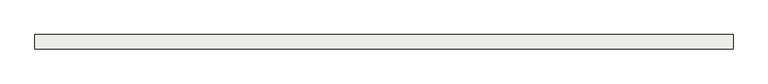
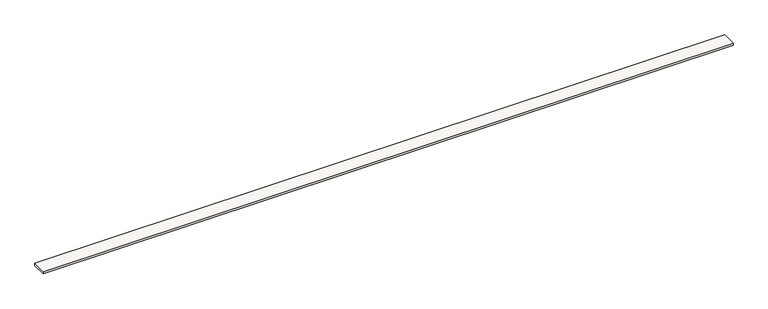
"""IFC4 building model written with IfcOpenShell, lengths in millimetres: slab geometry, Sol-02 - Dalle épine."""

from ifc_helpers import new_model, si_unit, frame, origin, place, context, project, spatial, polyline, outline, extrude, source, transform, mapped, element, save


def slab_cae1738f(model_context):
    return source(origin(), model_context, "Body", "SweptSolid", [
        extrude(outline(polyline([(-4099.9988284, -30503.1349959), (-4099.9988284, -31403.1349959), (-47679.998776, -31403.1349959), (-47679.998776, -30503.1349959), (-4099.9988284, -30503.1349959)])), frame((0.0, 0.0, -310.0), z_axis=(0.0, 0.0, 1.0), x_axis=(1.0, 0.0, 0.0)), (0.0, 0.0, 1.0), 150.0),
    ])


if __name__ == "__main__":
    model = new_model("IFC4")
    model_context = context("Model", 3, world=origin())
    ifc_project = project(units=[si_unit("LENGTHUNIT", "METRE", prefix="MILLI")], contexts=[model_context])
    site = spatial("IfcSite", under=ifc_project)
    building = spatial("IfcBuilding", under=site)
    placement = place(None, origin())
    slab_shape = slab_cae1738f(model_context)
    element("IfcSlab", 1, ObjectType="Sol-02 - Dalle épine", at=placement, inside=building, context=model_context, shape_type="MappedRepresentation", body=[
        mapped(slab_shape, transform((0.0, 0.0, 0.0), x_axis=(1.0, 0.0, 0.0), y_axis=(0.0, 1.0, 0.0), z_axis=(0.0, 0.0, 1.0))),
    ])
    save(model, "model.ifc")
